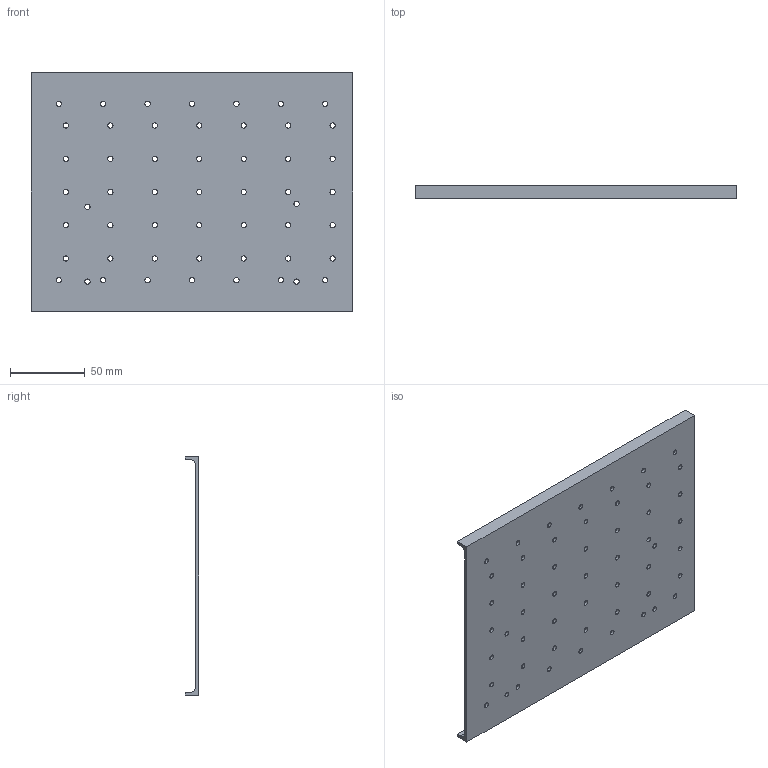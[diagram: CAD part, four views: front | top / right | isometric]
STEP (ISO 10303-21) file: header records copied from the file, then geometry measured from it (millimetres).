
FILE_DESCRIPTION (( 'STEP AP214' ), '1' );
FILE_NAME ('Box_drill_guide_Top.STEP', '2015-02-26T22:56:55', ( '' ), ( '' ), '', '', '' );
FILE_SCHEMA (( '' ));
Length unit declared in the file: millimetre
Products named in the file (1): Box_drill_guide_Top
Bounding box: 215.5 x 9 x 160 mm (x, y, z)
Volume: 75454.1 mm3; surface area: 75971.5 mm2
Topology: 1 solids, 1 shells, 118 faces, 348 edges, 232 vertices
Faces by surface type: cylinder 108, plane 10
Entity records: 4303 total; most frequent: DIRECTION 802, CARTESIAN_POINT 699, ORIENTED_EDGE 696, EDGE_CURVE 348, AXIS2_PLACEMENT_3D 335, VERTEX_POINT 232, EDGE_LOOP 224, CIRCLE 216
